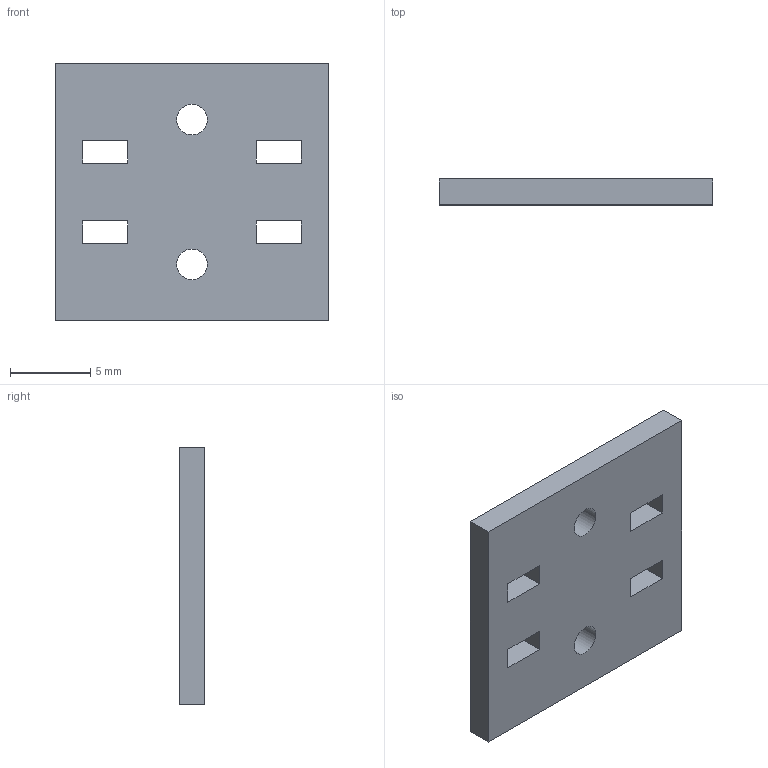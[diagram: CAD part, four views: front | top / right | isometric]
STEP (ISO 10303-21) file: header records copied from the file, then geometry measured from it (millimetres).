
FILE_DESCRIPTION(('Open CASCADE Model'),'2;1');
FILE_NAME('PLAY_SWITCH_FR4_CARRIER','2026-09-06T11:49:22',('Author'),( 'Open CASCADE'),'Open CASCADE STEP processor 7.8','build123d', 'Unknown');
FILE_SCHEMA(('AUTOMOTIVE_DESIGN { 1 0 10303 214 1 1 1 1 }'));
Length unit declared in the file: millimetre
Products named in the file (2): =>[0:1:1:2]; PLAY_SWITCH_FR4_CARRIER
Assembly tree (1 placements, depth 2):
  =>[0:1:1:2]
    PLAY_SWITCH_FR4_CARRIER
Bounding box: 17 x 1.6 x 16 mm (x, y, z)
Volume: 401 mm3; surface area: 679.8 mm2
Topology: 1 solids, 1 shells, 24 faces, 66 edges, 44 vertices
Faces by surface type: plane 22, cylinder 2
Full cylindrical faces by diameter (mm): 1.9 x2
Entity records: 1676 total; most frequent: CARTESIAN_POINT 292, DIRECTION 250, LINE 190, VECTOR 190, ORIENTED_EDGE 132, PCURVE 132, DEFINITIONAL_REPRESENTATION 132, EDGE_CURVE 66
